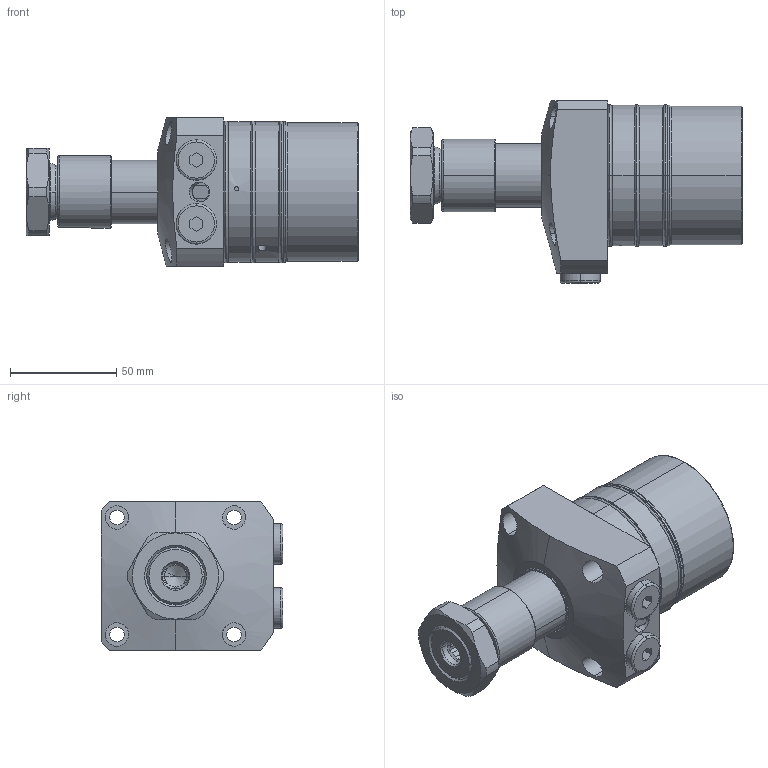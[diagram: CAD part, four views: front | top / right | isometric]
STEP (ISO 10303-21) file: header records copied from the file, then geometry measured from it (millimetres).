
FILE_DESCRIPTION(/* description */ (''),/* implementation_level */ '2;1');
FILE_NAME(/* name */ 'KTRW65-LE.stp',/* time_stamp */ '2022-11-18T11:23:55+08:00',/* author */ (''),/* organization */ (''),/* preprocessor_version */ 'ST-DEVELOPER v16.7',/* originating_system */ 'SIEMENS PLM Software NX 12.0',/* authorisation */ '');
FILE_SCHEMA (('AP203_CONFIGURATION_CONTROLLED_3D_DESIGN_OF_MECHANICAL_PARTS_AND_ASSEMBLIES_MIM_LF { 1 0 10303 403 2 1 2}'));
Length unit declared in the file: millimetre
Products named in the file (7): KTRW65-LE-04; KTRW65-LE-05; KTRW65-LE-01; KTRW65-LE-06; KTRW65-LE-02; KTRW65-LE-03; LHW0651-CLE_step
Assembly tree (9 placements, depth 2):
  LHW0651-CLE_step
    KTRW65-LE-03
    KTRW65-LE-02
    KTRW65-LE-06  x3
    KTRW65-LE-01
    KTRW65-LE-05  x2
    KTRW65-LE-04
Bounding box: 156 x 85.5 x 70 mm (x, y, z)
Volume: 403281.4 mm3; surface area: 62940.7 mm2
Topology: 12 solids, 12 shells, 393 faces, 878 edges, 537 vertices
Faces by surface type: cylinder 118, plane 112, torus 92, cone 69, sphere 2
Entity records: 10560 total; most frequent: CARTESIAN_POINT 2258, DIRECTION 1685, ORIENTED_EDGE 1456, EDGE_CURVE 728, AXIS2_PLACEMENT_3D 715, VERTEX_POINT 449, CIRCLE 383, EDGE_LOOP 365
